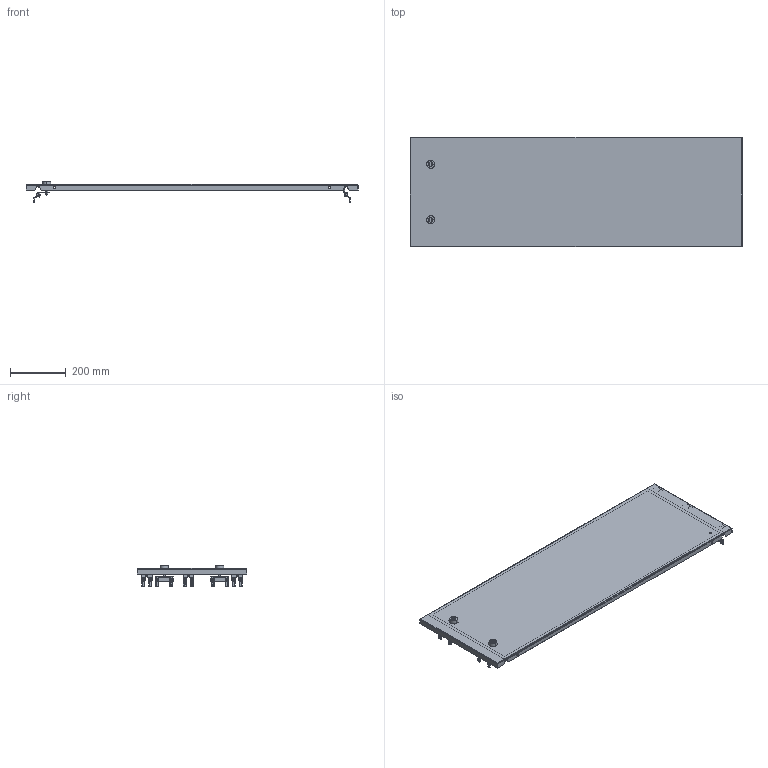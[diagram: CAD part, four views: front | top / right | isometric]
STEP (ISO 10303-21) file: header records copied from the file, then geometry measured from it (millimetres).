
FILE_DESCRIPTION(('CAx-IF Rec.Pracs.---Model Styling and Organization---1.2---2011-12-15','CAx-IF Rec.Pracs.---Geometric and Assembly Validation Properties---4.1---2014-06-16','CAx-IF Rec.Pracs.---PMI Polyline Presentation---2.0---2013-05-24'),'2;1');
FILE_NAME('R5CPMEM12400.stp','2021-05-06T04:02:16+03:00',(''),(''),'STEP Interface 4.4 by CT CoreTechnologie','3D_Evolution4.4 by CT CoreTechnologie','');
FILE_SCHEMA(('AUTOMOTIVE_DESIGN { 1 0 10303 214 1 1 1 1 }'));
Length unit declared in the file: millimetre
Products named in the file (15): R5CPMEM12400; AC00C485; M6 x 16-DIN 7991 ISR_thread; RB.0687.00.00.1; RB.0116.00.00.2_-00; AC00C745; MS737-1-1; MS737-1-1 Z_ ªàëâ; MS737-1-1 stop_fixed; RB.1406.00.00.1 ÑÁ_-00; RB.1406.00.01.1_-00; PF 7x14 R5PKEB_0400x1200; Ì6õ12-A5100231_straight; AC00C061_AC00C061; AC00C266
Assembly tree (40 placements, depth 3):
  R5CPMEM12400
    AC00C485  x10
    M6 x 16-DIN 7991 ISR_thread  x10
    RB.0687.00.00.1  x2
    RB.0116.00.00.2_-00  x3
    AC00C745  x3
    MS737-1-1  x2
      MS737-1-1 Z_ ªàëâ
      MS737-1-1 stop_fixed
    RB.1406.00.00.1 ÑÁ_-00
      RB.1406.00.01.1_-00
      PF 7x14 R5PKEB_0400x1200
      Ì6õ12-A5100231_straight
      AC00C061_AC00C061
      AC00C266  x3
Bounding box: 1194 x 395 x 77.95 mm (x, y, z)
Surface area: 1238880.1 mm2 (no closed solid volume)
Topology: 0 solids, 64 shells, 1966 faces, 4849 edges, 2985 vertices
Faces by surface type: plane 799, cylinder 764, bspline 403
Entity records: 21308 total; most frequent: CARTESIAN_POINT 6582, DIRECTION 2861, ORIENTED_EDGE 2856, EDGE_CURVE 1428, AXIS2_PLACEMENT_3D 1004, VERTEX_POINT 901, VECTOR 853, LINE 853
